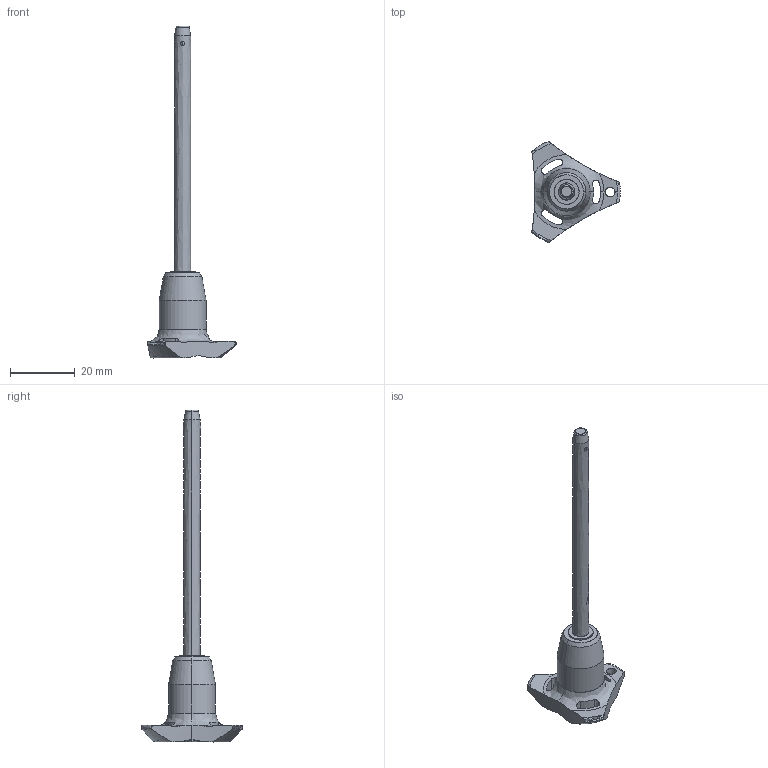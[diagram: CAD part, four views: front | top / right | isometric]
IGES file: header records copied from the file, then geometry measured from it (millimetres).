
Start section: SolidWorks IGES file using analytic representation for surfaces
Global section: file name: C:\Users\ianosborn\Desktop\QR1734_v2\QR1734_v2_20251113_IGES\QR1734.M05-070-S.igs; native system: SolidWorks 2019; preprocessor: SolidWorks 2019; author: IanOsborn; date: 251112.141437; units: millimetre
Bounding box: 27.4 x 31.31 x 102.7 mm (x, y, z)
Surface area: 3607.9 mm2 (no closed solid volume)
Topology: 0 solids, 0 shells, 66 faces, 1227 edges, 1208 vertices
Faces by surface type: revolution 50, bspline 16
